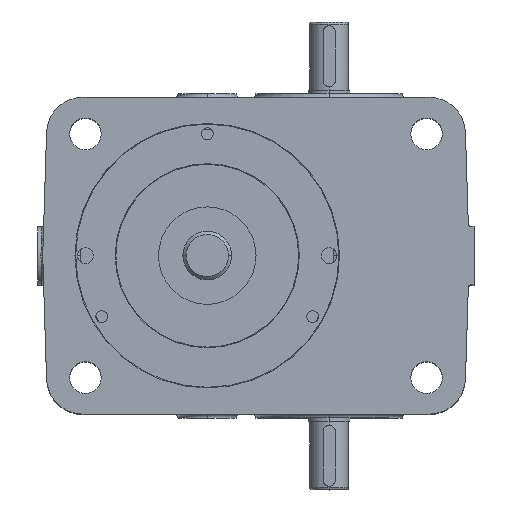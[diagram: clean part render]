
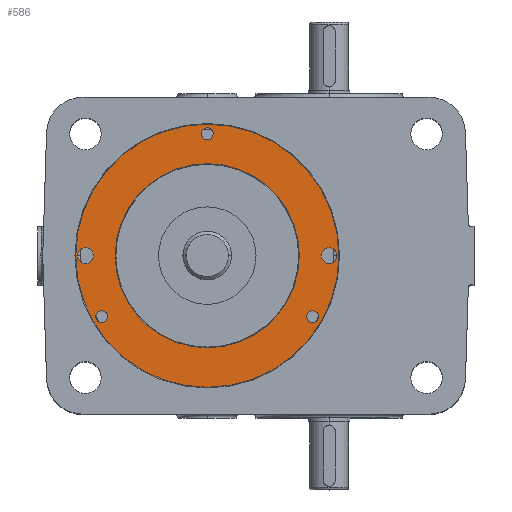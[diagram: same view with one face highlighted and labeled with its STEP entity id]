
A CAD part, top view. The second image highlights one B-rep face of the part: STEP entity #586.
In plain terms, the highlighted planar face has unit normal (0, 0, 1).
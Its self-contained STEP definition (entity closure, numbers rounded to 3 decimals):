
#586=ADVANCED_FACE('',(#1739,#1740,#1741,#1742,#1743,#1744,#1745),#1746,.T.);
#1739=FACE_BOUND('',#4070,.T.);
#1740=FACE_BOUND('',#4071,.T.);
#1741=FACE_BOUND('',#4072,.T.);
#1742=FACE_BOUND('',#4073,.T.);
#1743=FACE_BOUND('',#4074,.T.);
#1744=FACE_OUTER_BOUND('',#4075,.T.);
#1745=FACE_BOUND('',#4076,.T.);
#1746=PLANE('',#4077);
#4070=EDGE_LOOP('',(#7975,#7976));
#4071=EDGE_LOOP('',(#7977,#7978));
#4072=EDGE_LOOP('',(#7979,#7980));
#4073=EDGE_LOOP('',(#7981,#7982));
#4074=EDGE_LOOP('',(#7983,#7984));
#4075=EDGE_LOOP('',(#7985,#7986));
#4076=EDGE_LOOP('',(#7987,#7988));
#4077=AXIS2_PLACEMENT_3D('',#7989,#7990,#7991);
#7975=ORIENTED_EDGE('',*,*,#10267,.T.);
#7976=ORIENTED_EDGE('',*,*,#10253,.T.);
#7977=ORIENTED_EDGE('',*,*,#10270,.T.);
#7978=ORIENTED_EDGE('',*,*,#10244,.T.);
#7979=ORIENTED_EDGE('',*,*,#10272,.T.);
#7980=ORIENTED_EDGE('',*,*,#10240,.T.);
#7981=ORIENTED_EDGE('',*,*,#10274,.T.);
#7982=ORIENTED_EDGE('',*,*,#10236,.T.);
#7983=ORIENTED_EDGE('',*,*,#10276,.T.);
#7984=ORIENTED_EDGE('',*,*,#10232,.T.);
#7985=ORIENTED_EDGE('',*,*,#10249,.F.);
#7986=ORIENTED_EDGE('',*,*,#10268,.F.);
#7987=ORIENTED_EDGE('',*,*,#10281,.F.);
#7988=ORIENTED_EDGE('',*,*,#10219,.F.);
#7989=CARTESIAN_POINT('',(0.,-45.75,128.0));
#7990=DIRECTION('',(0.,0.0,1.0));
#7991=DIRECTION('',(-1.0,0.0,0.));
#10219=EDGE_CURVE('',#12517,#12520,#12521,.T.);
#10232=EDGE_CURVE('',#12544,#12541,#12545,.T.);
#10236=EDGE_CURVE('',#12552,#12549,#12553,.T.);
#10240=EDGE_CURVE('',#12560,#12557,#12561,.T.);
#10244=EDGE_CURVE('',#12568,#12565,#12569,.T.);
#10249=EDGE_CURVE('',#12575,#12578,#12579,.T.);
#10253=EDGE_CURVE('',#12586,#12583,#12587,.T.);
#10267=EDGE_CURVE('',#12583,#12586,#12607,.T.);
#10268=EDGE_CURVE('',#12578,#12575,#12608,.T.);
#10270=EDGE_CURVE('',#12565,#12568,#12610,.T.);
#10272=EDGE_CURVE('',#12557,#12560,#12612,.T.);
#10274=EDGE_CURVE('',#12549,#12552,#12614,.T.);
#10276=EDGE_CURVE('',#12541,#12544,#12616,.T.);
#10281=EDGE_CURVE('',#12520,#12517,#12621,.T.);
#12517=VERTEX_POINT('',#16767);
#12520=VERTEX_POINT('',#16771);
#12521=CIRCLE('',#16772,37.768);
#12541=VERTEX_POINT('',#16795);
#12544=VERTEX_POINT('',#16799);
#12545=CIRCLE('',#16800,2.459);
#12549=VERTEX_POINT('',#16805);
#12552=VERTEX_POINT('',#16809);
#12553=CIRCLE('',#16810,2.459);
#12557=VERTEX_POINT('',#16815);
#12560=VERTEX_POINT('',#16819);
#12561=CIRCLE('',#16820,2.459);
#12565=VERTEX_POINT('',#16825);
#12568=VERTEX_POINT('',#16829);
#12569=CIRCLE('',#16830,3.25);
#12575=VERTEX_POINT('',#16846);
#12578=VERTEX_POINT('',#16850);
#12579=CIRCLE('',#16851,54.0);
#12583=VERTEX_POINT('',#16856);
#12586=VERTEX_POINT('',#16860);
#12587=CIRCLE('',#16861,3.25);
#12607=CIRCLE('',#16911,3.25);
#12608=CIRCLE('',#16912,54.0);
#12610=CIRCLE('',#16914,3.25);
#12612=CIRCLE('',#16916,2.459);
#12614=CIRCLE('',#16918,2.459);
#12616=CIRCLE('',#16920,2.459);
#12621=CIRCLE('',#16925,37.768);
#16767=CARTESIAN_POINT('',(0.,37.768,128.0));
#16771=CARTESIAN_POINT('',(0.,-37.768,128.0));
#16772=AXIS2_PLACEMENT_3D('',#19439,#19440,#19441);
#16795=CARTESIAN_POINT('',(-2.459,50.0,128.0));
#16799=CARTESIAN_POINT('',(2.459,50.0,128.0));
#16800=AXIS2_PLACEMENT_3D('',#19470,#19471,#19472);
#16805=CARTESIAN_POINT('',(44.531,-22.871,128.0));
#16809=CARTESIAN_POINT('',(42.072,-27.129,128.0));
#16810=AXIS2_PLACEMENT_3D('',#19478,#19479,#19480);
#16815=CARTESIAN_POINT('',(-42.072,-27.129,128.0));
#16819=CARTESIAN_POINT('',(-44.531,-22.871,128.0));
#16820=AXIS2_PLACEMENT_3D('',#19486,#19487,#19488);
#16825=CARTESIAN_POINT('',(46.75,0.0,128.0));
#16829=CARTESIAN_POINT('',(53.25,0.,128.0));
#16830=AXIS2_PLACEMENT_3D('',#19494,#19495,#19496);
#16846=CARTESIAN_POINT('',(0.,-54.0,128.0));
#16850=CARTESIAN_POINT('',(0.,54.0,128.0));
#16851=AXIS2_PLACEMENT_3D('',#19502,#19503,#19504);
#16856=CARTESIAN_POINT('',(-53.25,0.0,128.0));
#16860=CARTESIAN_POINT('',(-46.75,0.,128.0));
#16861=AXIS2_PLACEMENT_3D('',#19510,#19511,#19512);
#16911=AXIS2_PLACEMENT_3D('',#19537,#19538,#19539);
#16912=AXIS2_PLACEMENT_3D('',#19540,#19541,#19542);
#16914=AXIS2_PLACEMENT_3D('',#19546,#19547,#19548);
#16916=AXIS2_PLACEMENT_3D('',#19552,#19553,#19554);
#16918=AXIS2_PLACEMENT_3D('',#19558,#19559,#19560);
#16920=AXIS2_PLACEMENT_3D('',#19564,#19565,#19566);
#16925=AXIS2_PLACEMENT_3D('',#19579,#19580,#19581);
#19439=CARTESIAN_POINT('',(0.,0.0,128.0));
#19440=DIRECTION('',(0.,0.0,1.0));
#19441=DIRECTION('',(0.0,1.0,0.0));
#19470=CARTESIAN_POINT('',(0.,50.0,128.0));
#19471=DIRECTION('',(0.,0.0,-1.0));
#19472=DIRECTION('',(-1.0,0.0,0.));
#19478=CARTESIAN_POINT('',(43.301,-25.0,128.0));
#19479=DIRECTION('',(0.,0.,-1.0));
#19480=DIRECTION('',(0.5,0.866,0.));
#19486=CARTESIAN_POINT('',(-43.301,-25.0,128.0));
#19487=DIRECTION('',(0.,0.0,-1.0));
#19488=DIRECTION('',(0.5,-0.866,0.));
#19494=CARTESIAN_POINT('',(50.0,0.0,128.0));
#19495=DIRECTION('',(0.,0.0,-1.0));
#19496=DIRECTION('',(-1.0,0.0,0.));
#19502=CARTESIAN_POINT('',(0.,0.0,128.0));
#19503=DIRECTION('',(0.,0.0,-1.0));
#19504=DIRECTION('',(0.0,-1.0,0.0));
#19510=CARTESIAN_POINT('',(-50.0,0.0,128.0));
#19511=DIRECTION('',(0.,0.0,-1.0));
#19512=DIRECTION('',(-1.0,0.0,0.));
#19537=CARTESIAN_POINT('',(-50.0,0.0,128.0));
#19538=DIRECTION('',(0.,0.0,-1.0));
#19539=DIRECTION('',(-1.0,0.0,0.));
#19540=CARTESIAN_POINT('',(0.,0.0,128.0));
#19541=DIRECTION('',(0.,0.0,-1.0));
#19542=DIRECTION('',(0.0,-1.0,0.0));
#19546=CARTESIAN_POINT('',(50.0,0.0,128.0));
#19547=DIRECTION('',(0.,0.0,-1.0));
#19548=DIRECTION('',(-1.0,0.0,0.));
#19552=CARTESIAN_POINT('',(-43.301,-25.0,128.0));
#19553=DIRECTION('',(0.,0.0,-1.0));
#19554=DIRECTION('',(0.5,-0.866,0.));
#19558=CARTESIAN_POINT('',(43.301,-25.0,128.0));
#19559=DIRECTION('',(0.,0.,-1.0));
#19560=DIRECTION('',(0.5,0.866,0.));
#19564=CARTESIAN_POINT('',(0.,50.0,128.0));
#19565=DIRECTION('',(0.,0.0,-1.0));
#19566=DIRECTION('',(-1.0,0.0,0.));
#19579=CARTESIAN_POINT('',(0.,0.0,128.0));
#19580=DIRECTION('',(0.,0.0,1.0));
#19581=DIRECTION('',(0.0,1.0,0.0));
